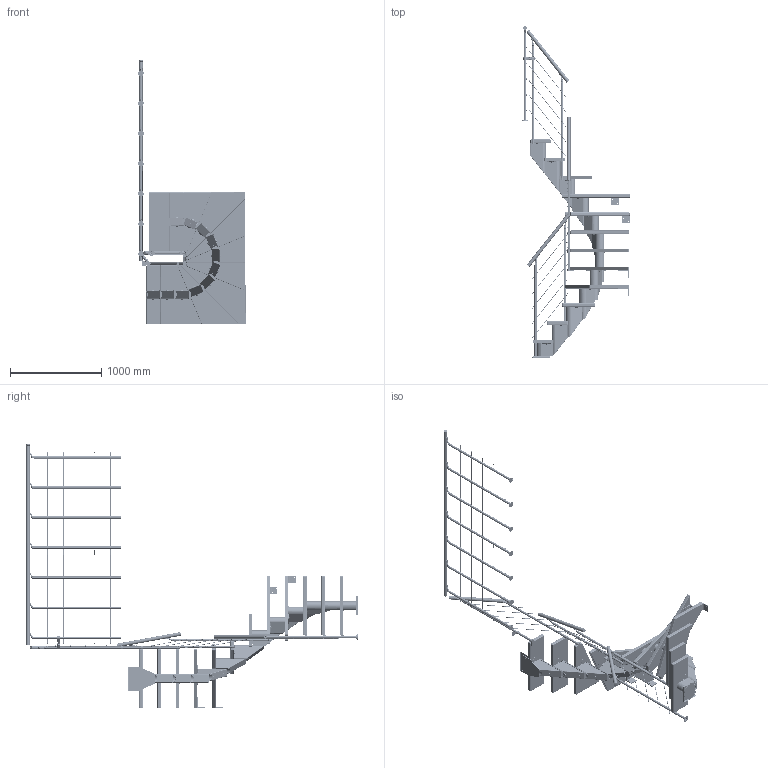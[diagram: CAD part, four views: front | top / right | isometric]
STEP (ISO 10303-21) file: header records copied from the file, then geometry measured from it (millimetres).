
FILE_DESCRIPTION (( 'STEP AP214' ), '1' );
FILE_NAME ('5481 - FRANKFURT ½-sving STYLE 6 gelænder.STEP', '2021-09-03T09:44:00', ( '' ), ( '' ), 'SwSTEP 2.0', 'SolidWorks 2019', '' );
FILE_SCHEMA (( 'AUTOMOTIVE_DESIGN' ));
Length unit declared in the file: millimetre
Products named in the file (155): H2-20506; WIRE^5066761; K1-1077045_K1-1077047; K2-1077425_K2-1077427; K2-1077195_K2-1077197; K1-40560; K3-06027; K2-1077025_K2-1077027; K1-14070_K1-14070; K2-1077195_90ø; K2-1077625; H2-20505; K1-1077411; K1-34030; WIRE^5066761_02; K3-06008_M5x50_UH; K1-1077002; M2-1078905; 5481 - FRANKFURT ½-sving STYLE 6 gelænder; K1-1077400_K1-1077402; K1-1077208_K1-1077213; K3-06022_K3-06022; K2-1077030_K2-1077032; K3-02009_K3-02009; K2-1077430_K2-1077432; K3-02016_M5x12 DIN 912; K1-1077150_K1-1077152; K1-40562_Default<As Machined>; K1-40200; K1-1077170_K1-1077172; K1-34021; K1-1077209; K1-14070_K1-14070-04; K1-1077070_K1-1077072; K3-06290; 1077480-01_23; K1-1077625; K2-1077440_K2-1077442; HÅNDLISTE^5066761; K2-1077610_K2-1077612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
Assembly tree (457 placements, depth 5):
  5481 - FRANKFURT ½-sving STYLE 6 gelænder
    5066761
      1077480-01_23
        K2-1077420_K2-1077422
          K1-34031
          K1-34030
          K1-1077002
        K2-1077425_K2-1077427
          K1-34031
          K1-34030
        K2-1077425_K2-1077427
          K1-34031
          K1-34030
        K2-1077425_K2-1077427
          K1-34031
          K1-34030
        K2-1077425_K2-1077427
          K1-34031
          K1-34030
        K2-1077425_K2-1077427
          K1-34031
          K1-34030
        K2-1077425_K2-1077427
          K1-34031
          K1-34030
        K2-1077425_K2-1077427
          K1-34031
          K1-34030
        K2-1077425_K2-1077427
          K1-34031
          K1-34030
        K2-1077425_K2-1077427
          K1-34031
          K1-34030
        K2-1077425_K2-1077427
          K1-34031
          K1-34030
        K2-1077430_K2-1077432
          K1-34021
          K1-34020___
          K1-1077411
        K2-1077440_K2-1077442
          K1-34010
          K1-34011
        K1-1077400_K1-1077402
        K1-1077070_K1-1077072
        H2-20505
        H2-20506
        R1-63500_R1-63500
        K3-04053_K3-04053
      M2-1078300
      M2-1078309  x2
      M2-1078308  x2
      M2-1078307  x2
      M2-1078306  x2
      M2-1078301  x3
      K1-1077605_K1-1077607  x5
      K2-1077025_K2-1077027
        K1-40560
        K1-40561
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Bounding box: 1180.44 x 3641.47 x 2905 mm (x, y, z)
Volume: 92346047.4 mm3; surface area: 12202299.2 mm2
Topology: 400 solids, 400 shells, 10467 faces, 25392 edges, 15487 vertices
Faces by surface type: cylinder 3788, plane 3041, cone 1146, torus 1136, bspline 940, sphere 416
Entity records: 101650 total; most frequent: CARTESIAN_POINT 38351, DIRECTION 12643, ORIENTED_EDGE 11474, EDGE_CURVE 5737, AXIS2_PLACEMENT_3D 5160, VERTEX_POINT 3573, EDGE_LOOP 2564, CIRCLE 2436
